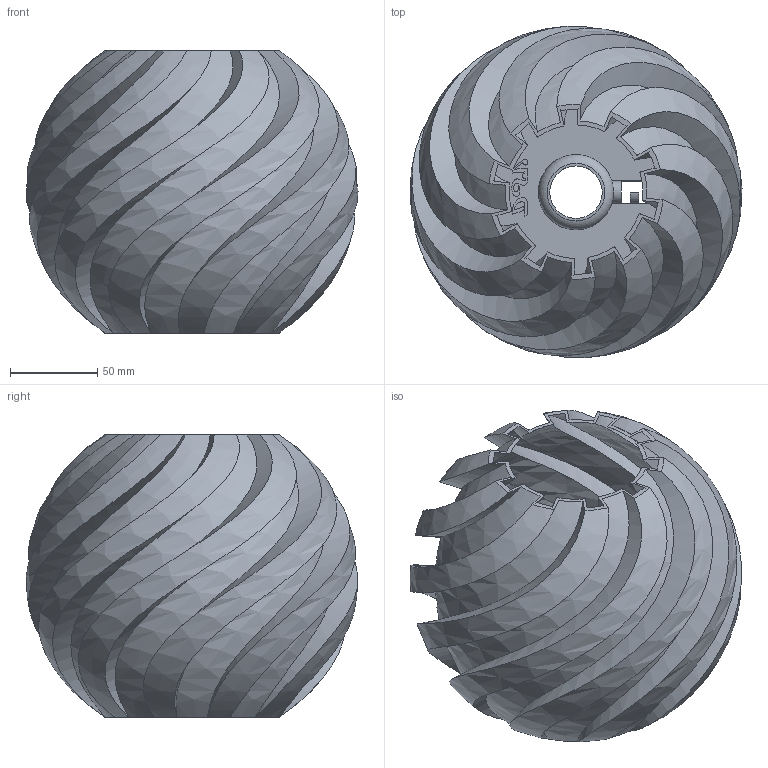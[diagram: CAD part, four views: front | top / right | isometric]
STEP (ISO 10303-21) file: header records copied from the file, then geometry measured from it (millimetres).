
FILE_DESCRIPTION(('STEP AP214'),'1');
FILE_NAME('Lampara.stp','2018-03-31T19:05:56',(' '),(' '),'Spatial InterOp 3D',' ',' ');
FILE_SCHEMA(('AUTOMOTIVE_DESIGN { 1 0 10303 214 1 1 1 1 }'));
Length unit declared in the file: millimetre
Products named in the file (1): Lampara
Bounding box: 189.96 x 189.71 x 161.5 mm (x, y, z)
Volume: 228440.9 mm3; surface area: 305890.4 mm2
Topology: 1 solids, 1 shells, 166 faces, 466 edges, 303 vertices
Faces by surface type: plane 40, offset 40, bspline 40, extrusion 36, cylinder 8, torus 2
Full cylindrical faces by diameter (mm): 30 x1, 33 x1, 40 x1, 43 x1
Entity records: 32432 total; most frequent: CARTESIAN_POINT 27643, ORIENTED_EDGE 914, EDGE_CURVE 457, B_SPLINE_CURVE_WITH_KNOTS 338, DIRECTION 309, VERTEX_POINT 300, EDGE_LOOP 177, VECTOR 175
